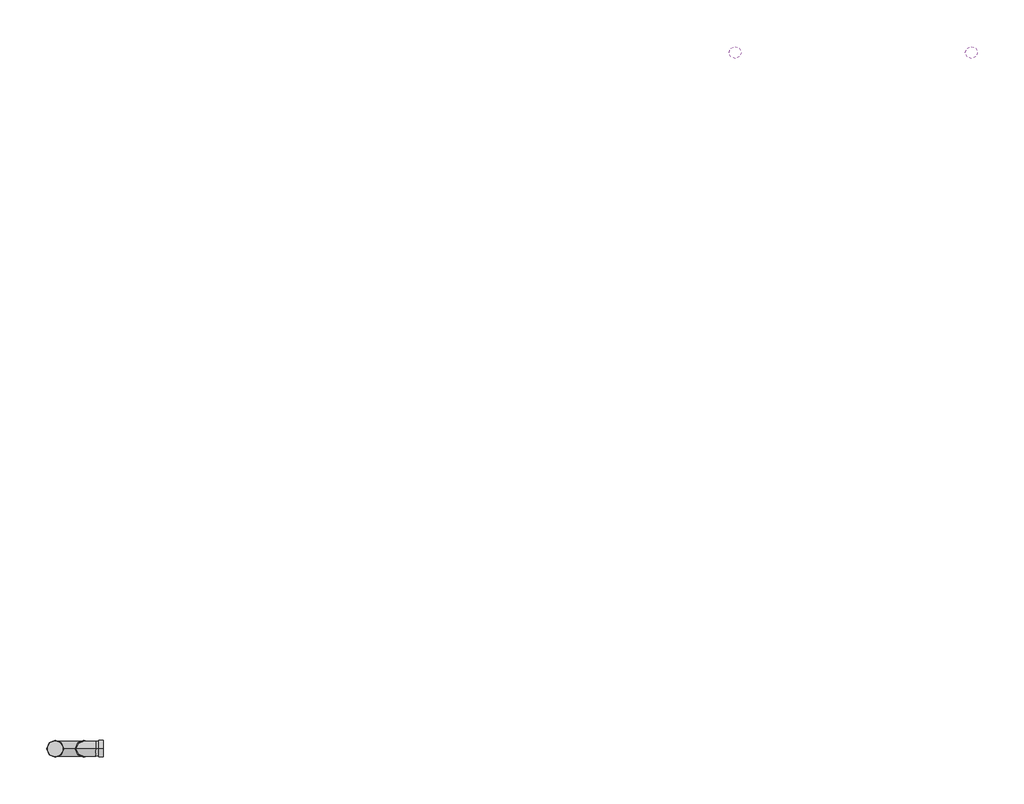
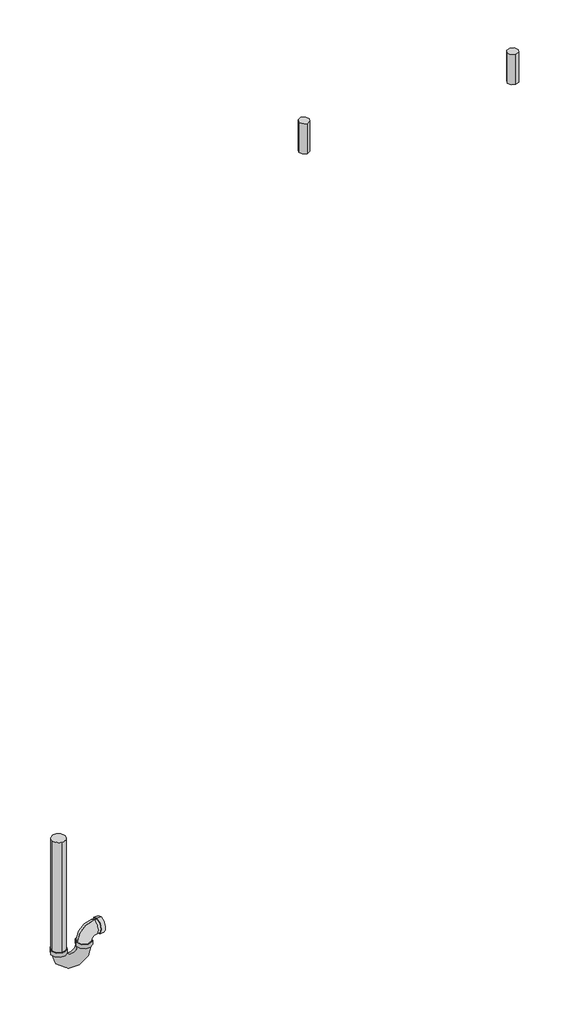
# One storey, incomplete: 3 pipe segments, 1 pipe fitting.
"""IFC4 building model written with IfcOpenShell, lengths in millimetres."""

from ifc_helpers import new_model, si_unit, point, frame, frame_2d, origin, place, context, project, spatial, circle_curve, trimmed, segment, composite_curve, outline, extrude, transform, mapped, element, save
from components import standard_73d07651

model = new_model("IFC4")

# Units and contexts
model_context = context("Model", 3, world=origin())
ifc_project = project(units=[si_unit("LENGTHUNIT", "METRE", prefix="MILLI")], contexts=[model_context])

# Site, building, storey
site = spatial("IfcSite", under=ifc_project)
building = spatial("IfcBuilding", under=site)
storey = spatial("IfcBuildingStorey", under=building, Name="T.O FOOTING - EXTERIOR", Elevation=-914.4)

# Pipe fitting
placement = place(None, origin())
standard_shape = standard_73d07651(model_context)
element("IfcPipeFitting", 1, ObjectType="GES P TRAP PVC Sch 40 - DWV : Standard", at=placement, inside=storey, context=model_context, shape_type="MappedRepresentation", body=[
    mapped(standard_shape, transform((34333.4985903, 4229.7394509, -462.2184979), x_axis=(0.0, 0.0, -1.0), y_axis=(1.0, 0.0, 0.0), z_axis=(0.0, -1.0, 0.0))),
])

# Pipe segments
element("IfcPipeSegment", 2, ObjectType="PVC - SAN/STORM", at=placement, inside=storey, context=model_context, shape_type="SweptSolid", body=[
    extrude(outline(composite_curve([segment(trimmed(circle_curve(frame_2d((37038.5671037, 7000.8605294)), 24.13), [point((37014.4371037, 7000.8605294))], [point((37038.5671037, 7024.9905294))], False, "CARTESIAN"), True, "CONTINUOUS"), segment(trimmed(circle_curve(frame_2d((37038.5671037, 7000.8605294)), 24.13), [point((37038.5671037, 7024.9905294))], [point((37062.6971037, 7000.8605294))], False, "CARTESIAN"), True, "CONTINUOUS"), segment(trimmed(circle_curve(frame_2d((37038.5671037, 7000.8605294)), 24.13), [point((37062.6971037, 7000.8605294))], [point((37038.5671037, 6976.7305294))], False, "CARTESIAN"), True, "CONTINUOUS"), segment(trimmed(circle_curve(frame_2d((37038.5671037, 7000.8605294)), 24.13), [point((37038.5671037, 6976.7305294))], [point((37014.4371037, 7000.8605294))], False, "CARTESIAN"), True, "CONTINUOUS")], self_intersect=False)), frame((0.0, 0.0, 660.3191766), z_axis=(0.0, 0.0, 1.0), x_axis=(1.0, 0.0, 0.0)), (0.0, 0.0, 1.0), 142.4819091),
])
element("IfcPipeSegment", 3, ObjectType="PVC - SAN/STORM", at=placement, inside=storey, context=model_context, shape_type="SweptSolid", body=[
    extrude(outline(composite_curve([segment(trimmed(circle_curve(frame_2d((37978.3671037, 7000.8605294)), 24.13), [point((37954.2371037, 7000.8605294))], [point((37978.3671037, 7024.9905294))], False, "CARTESIAN"), True, "CONTINUOUS"), segment(trimmed(circle_curve(frame_2d((37978.3671037, 7000.8605294)), 24.13), [point((37978.3671037, 7024.9905294))], [point((38002.4971037, 7000.8605294))], False, "CARTESIAN"), True, "CONTINUOUS"), segment(trimmed(circle_curve(frame_2d((37978.3671037, 7000.8605294)), 24.13), [point((38002.4971037, 7000.8605294))], [point((37978.3671037, 6976.7305294))], False, "CARTESIAN"), True, "CONTINUOUS"), segment(trimmed(circle_curve(frame_2d((37978.3671037, 7000.8605294)), 24.13), [point((37978.3671037, 6976.7305294))], [point((37954.2371037, 7000.8605294))], False, "CARTESIAN"), True, "CONTINUOUS")], self_intersect=False)), frame((0.0, 0.0, 660.3191766), z_axis=(0.0, 0.0, 1.0), x_axis=(1.0, 0.0, 0.0)), (0.0, 0.0, 1.0), 142.4819091),
])
element("IfcPipeSegment", 4, ObjectType="PVC - SAN/STORM", at=placement, inside=storey, context=model_context, shape_type="SweptSolid", body=[
    extrude(outline(composite_curve([segment(trimmed(circle_curve(frame_2d((0.0, 30.1625)), 30.1625), [point((-30.1625, 30.1625))], [point((0.0, 60.325))], False, "CARTESIAN"), True, "CONTINUOUS"), segment(trimmed(circle_curve(frame_2d((0.0, 30.1625)), 30.1625), [point((0.0, 60.325))], [point((30.1625, 30.1625))], False, "CARTESIAN"), True, "CONTINUOUS"), segment(trimmed(circle_curve(frame_2d((0.0, 30.1625)), 30.1625), [point((30.1625, 30.1625))], [point((0.0, 0.0))], False, "CARTESIAN"), True, "CONTINUOUS"), segment(trimmed(circle_curve(frame_2d((0.0, 30.1625)), 30.1625), [point((0.0, 0.0))], [point((-30.1625, 30.1625))], False, "CARTESIAN"), True, "CONTINUOUS")], self_intersect=False)), frame((34333.4985903, 4199.576951, -509.841727), z_axis=(0.0, 5.8713768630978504e-05, 0.9999999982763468), x_axis=(1.0, 0.0, 0.0)), (0.0, 0.0, 1.0), 523.860192),
])

save(model, "model.ifc")
